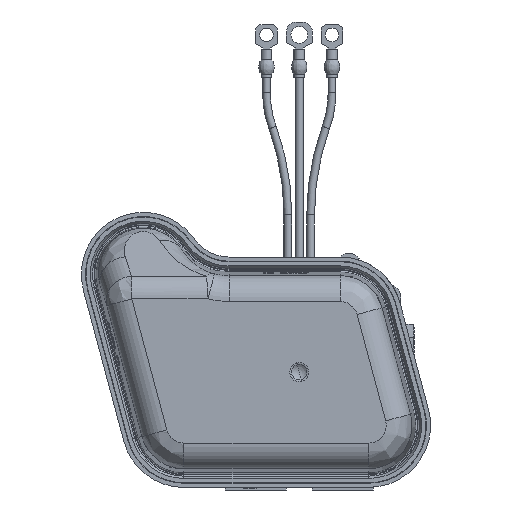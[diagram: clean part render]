
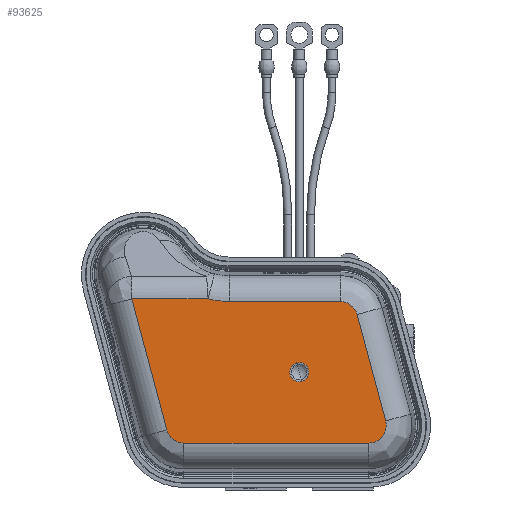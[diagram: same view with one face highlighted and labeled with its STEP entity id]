
A CAD part, front view. The second image highlights one B-rep face of the part: STEP entity #93625.
In plain terms, the highlighted planar face has unit normal (0, -1, 0) as drawn and (0, 1, 0) by its records, which use the part's own axes.
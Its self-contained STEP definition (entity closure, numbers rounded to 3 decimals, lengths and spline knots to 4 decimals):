
#88016=CARTESIAN_POINT('',(0.,2.81,0.));
#88017=DIRECTION('',(0.,1.,0.));
#88018=DIRECTION('',(0.,0.,1.));
#88019=AXIS2_PLACEMENT_3D('',#88016,#88017,#88018);
#88021=CARTESIAN_POINT('',(0.,2.81,0.));
#88022=DIRECTION('',(0.,1.,0.));
#88023=DIRECTION('',(0.,0.,-1.));
#88024=AXIS2_PLACEMENT_3D('',#88021,#88022,#88023);
#88026=DIRECTION('',(0.,0.,1.));
#88027=VECTOR('',#88026,2.143);
#88028=CARTESIAN_POINT('',(-1.3765,2.81,-1.3488));
#88029=LINE('',#88028,#88027);
#88039=CARTESIAN_POINT('',(-1.035,2.81,0.7942));
#88040=DIRECTION('',(0.,1.,0.));
#88041=DIRECTION('',(-1.,0.,0.));
#88042=AXIS2_PLACEMENT_3D('',#88039,#88040,#88041);
#88054=DIRECTION('',(0.966,0.,0.259));
#88055=VECTOR('',#88054,2.1603);
#88056=CARTESIAN_POINT('',(-1.1234,2.81,1.124));
#88057=LINE('',#88056,#88055);
#88077=CARTESIAN_POINT('',(0.525,2.81,3.319));
#88078=DIRECTION('',(0.,-1.,0.));
#88079=DIRECTION('',(0.259,0.,-0.966));
#88080=AXIS2_PLACEMENT_3D('',#88077,#88078,#88079);
#88082=CARTESIAN_POINT('',(1.3434,2.81,1.8363));
#88107=DIRECTION('',(0.966,0.,0.259));
#88108=VECTOR('',#88107,1.4867);
#88109=CARTESIAN_POINT('',(1.3434,2.81,1.8363));
#88110=LINE('',#88109,#88108);
#88123=CARTESIAN_POINT('',(2.7795,2.81,2.2211));
#88140=DIRECTION('',(0.,0.,-1.));
#88141=VECTOR('',#88140,2.6394);
#88142=CARTESIAN_POINT('',(2.7795,2.81,2.2211));
#88143=LINE('',#88142,#88141);
#88153=CARTESIAN_POINT('',(2.438,2.81,-0.4183));
#88154=DIRECTION('',(0.,1.,0.));
#88155=DIRECTION('',(1.,0.,0.));
#88156=AXIS2_PLACEMENT_3D('',#88153,#88154,#88155);
#88168=DIRECTION('',(-0.966,0.,-0.259));
#88169=VECTOR('',#88168,3.5955);
#88170=CARTESIAN_POINT('',(2.5264,2.81,-0.7481));
#88171=LINE('',#88170,#88169);
#88181=CARTESIAN_POINT('',(-1.035,2.81,-1.3488));
#88182=DIRECTION('',(0.,1.,0.));
#88183=DIRECTION('',(0.259,0.,-0.966));
#88184=AXIS2_PLACEMENT_3D('',#88181,#88182,#88183);
#92492=CARTESIAN_POINT('',(-1.3765,2.81,-1.3488));
#92493=CARTESIAN_POINT('',(-1.3765,2.81,0.7942));
#92494=VERTEX_POINT('',#92492);
#92495=VERTEX_POINT('',#92493);
#92500=CARTESIAN_POINT('',(-1.1234,2.81,1.124));
#92501=VERTEX_POINT('',#92500);
#92504=VERTEX_POINT('',#88082);
#92516=VERTEX_POINT('',#88123);
#92518=CARTESIAN_POINT('',(2.7795,2.81,-0.4183));
#92519=VERTEX_POINT('',#92518);
#92522=CARTESIAN_POINT('',(2.5264,2.81,-0.7481));
#92523=VERTEX_POINT('',#92522);
#92526=CARTESIAN_POINT('',(-0.9466,2.81,-1.6787));
#92527=VERTEX_POINT('',#92526);
#92530=CARTESIAN_POINT('',(0.9633,2.81,1.6832));
#92531=VERTEX_POINT('',#92530);
#93002=CARTESIAN_POINT('',(0.,2.81,0.1865));
#93003=CARTESIAN_POINT('',(0.,2.81,-0.1865));
#93004=VERTEX_POINT('',#93002);
#93005=VERTEX_POINT('',#93003);
#93594=CARTESIAN_POINT('',(0.,2.81,0.));
#93595=DIRECTION('',(0.,1.,0.));
#93596=DIRECTION('',(0.,0.,-1.));
#93597=AXIS2_PLACEMENT_3D('',#93594,#93595,#93596);
#93598=PLANE('',#93597);
#93600=ORIENTED_EDGE('',*,*,#93599,.F.);
#93602=ORIENTED_EDGE('',*,*,#93601,.F.);
#93604=ORIENTED_EDGE('',*,*,#93603,.F.);
#93606=ORIENTED_EDGE('',*,*,#93605,.F.);
#93608=ORIENTED_EDGE('',*,*,#93607,.F.);
#93610=ORIENTED_EDGE('',*,*,#93609,.F.);
#93612=ORIENTED_EDGE('',*,*,#93611,.F.);
#93614=ORIENTED_EDGE('',*,*,#93613,.F.);
#93616=ORIENTED_EDGE('',*,*,#93615,.F.);
#93617=EDGE_LOOP('',(#93600,#93602,#93604,#93606,#93608,#93610,#93612,#93614,
#93616));
#93618=FACE_OUTER_BOUND('',#93617,.F.);
#93620=ORIENTED_EDGE('',*,*,#93619,.T.);
#93622=ORIENTED_EDGE('',*,*,#93621,.T.);
#93623=EDGE_LOOP('',(#93620,#93622));
#93624=FACE_BOUND('',#93623,.F.);
#93625=ADVANCED_FACE('',(#93618,#93624),#93598,.T.);
#88020=CIRCLE('',#88019,0.1865);
#88025=CIRCLE('',#88024,0.1865);
#88043=CIRCLE('',#88042,0.3415);
#88081=CIRCLE('',#88080,1.6935);
#88157=CIRCLE('',#88156,0.3415);
#88185=CIRCLE('',#88184,0.3415);
#93599=EDGE_CURVE('',#92494,#92495,#88029,.T.);
#93601=EDGE_CURVE('',#92527,#92494,#88185,.T.);
#93603=EDGE_CURVE('',#92523,#92527,#88171,.T.);
#93605=EDGE_CURVE('',#92519,#92523,#88157,.T.);
#93607=EDGE_CURVE('',#92516,#92519,#88143,.T.);
#93609=EDGE_CURVE('',#92504,#92516,#88110,.T.);
#93611=EDGE_CURVE('',#92531,#92504,#88081,.T.);
#93613=EDGE_CURVE('',#92501,#92531,#88057,.T.);
#93615=EDGE_CURVE('',#92495,#92501,#88043,.T.);
#93619=EDGE_CURVE('',#93004,#93005,#88020,.T.);
#93621=EDGE_CURVE('',#93005,#93004,#88025,.T.);
